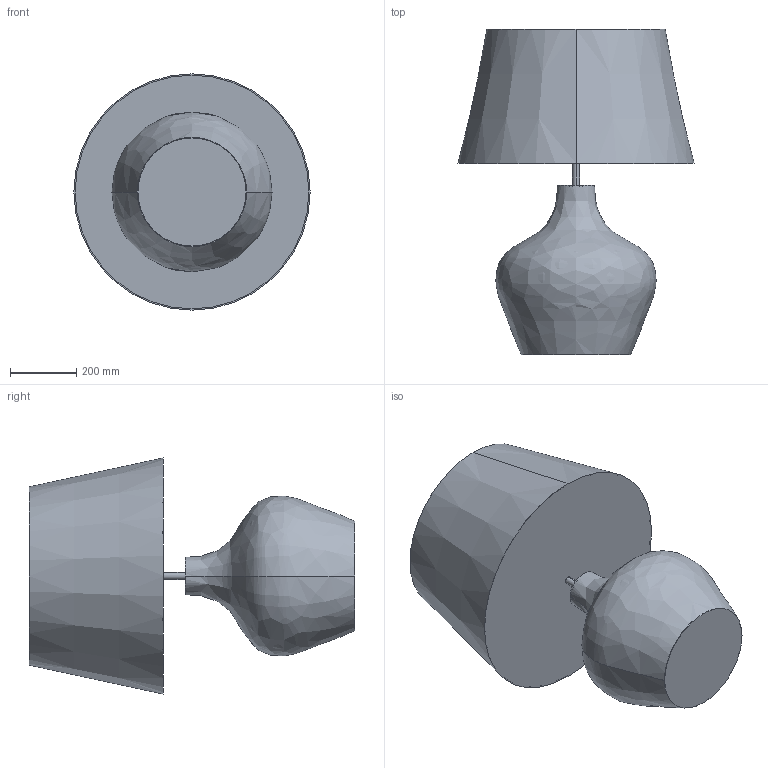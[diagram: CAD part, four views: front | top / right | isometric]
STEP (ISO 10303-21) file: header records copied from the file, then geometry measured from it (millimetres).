
FILE_DESCRIPTION (( 'STEP AP214' ), '1' );
FILE_NAME ('06_v1.STEP', '2016-10-07T08:29:39', ( 'Tripiodiy' ), ( '' ), 'SwSTEP 2.0', 'SolidWorks 2016', '' );
FILE_SCHEMA (( 'AUTOMOTIVE_DESIGN' ));
Length unit declared in the file: millimetre
Products named in the file (1): 06_v1
Bounding box: 712.01 x 981.66 x 712.01 mm (x, y, z)
Volume: 5769751.6 mm3; surface area: 3851207.7 mm2
Topology: 1 solids, 1 shells, 20 faces, 38 edges, 24 vertices
Faces by surface type: cone 6, plane 6, bspline 4, cylinder 4
Entity records: 1236 total; most frequent: CARTESIAN_POINT 795, DIRECTION 92, ORIENTED_EDGE 76, AXIS2_PLACEMENT_3D 41, EDGE_CURVE 38, EDGE_LOOP 24, VERTEX_POINT 24, CIRCLE 24
